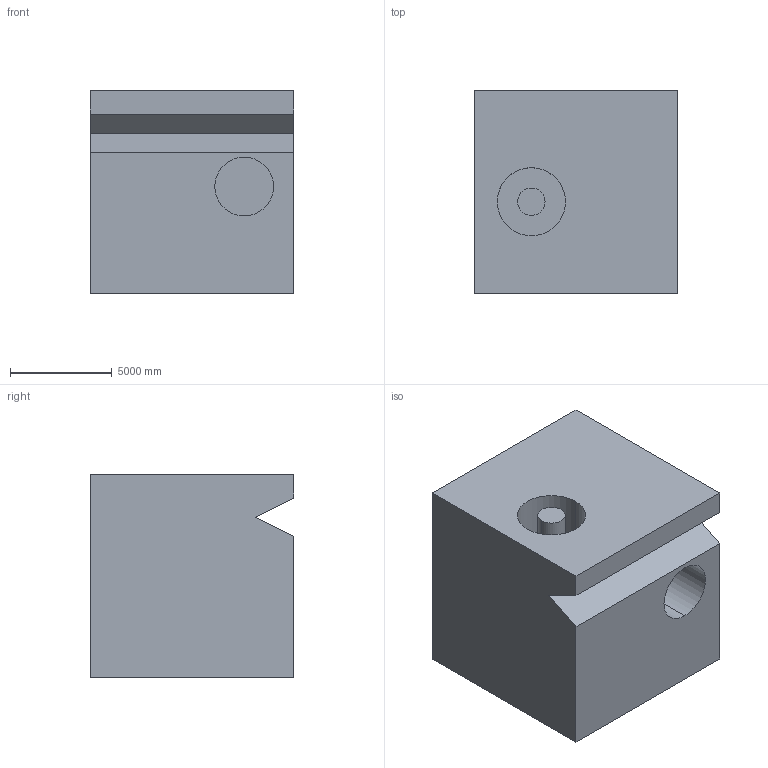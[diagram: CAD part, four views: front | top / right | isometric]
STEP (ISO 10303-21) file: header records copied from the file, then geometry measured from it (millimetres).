
FILE_DESCRIPTION (( 'STEP AP203' ), '1' );
FILE_NAME ('1250.STEP', '2022-08-18T13:23:31', ( 'user' ), ( '' ), 'SwSTEP 2.0', 'SolidWorks 2021', '' );
FILE_SCHEMA (( 'CONFIG_CONTROL_DESIGN' ));
Length unit declared in the file: centimetre
Products named in the file (1): 1250
Bounding box: 10000 x 10000 x 10000 mm (x, y, z)
Volume: 942672082991.6 mm3; surface area: 685738836.5 mm2
Topology: 1 solids, 1 shells, 18 faces, 39 edges, 26 vertices
Faces by surface type: plane 12, cylinder 6
Entity records: 572 total; most frequent: DIRECTION 89, CARTESIAN_POINT 84, ORIENTED_EDGE 78, EDGE_CURVE 39, AXIS2_PLACEMENT_3D 31, LINE 27, VECTOR 27, VERTEX_POINT 26
